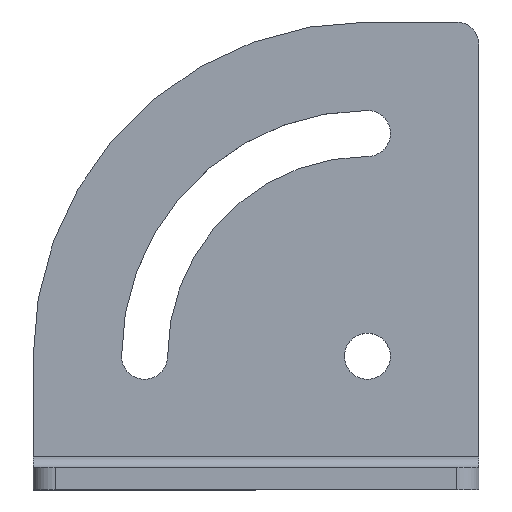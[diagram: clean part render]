
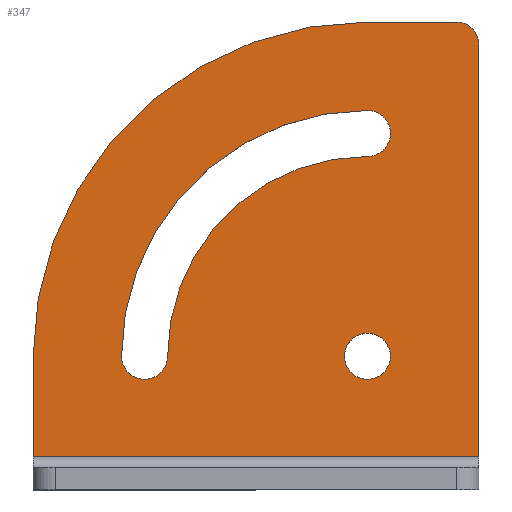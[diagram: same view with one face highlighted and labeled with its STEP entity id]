
A CAD part, top view. The second image highlights one B-rep face of the part: STEP entity #347.
In plain terms, the highlighted planar face has unit normal (0, 0, 1).
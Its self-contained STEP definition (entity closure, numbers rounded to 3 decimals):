
#12 = EDGE_CURVE ( 'NONE', #451, #605, #1016, .T. ) ;
#18 = CARTESIAN_POINT ( 'NONE',  ( 41.999, 24.539, 3. ) ) ;
#28 = DIRECTION ( 'NONE',  ( 0., 0., 1. ) ) ;
#30 = VECTOR ( 'NONE', #785, 1000. ) ;
#36 = DIRECTION ( 'NONE',  ( 1., 0., 0. ) ) ;
#38 = AXIS2_PLACEMENT_3D ( 'NONE', #144, #768, #245 ) ;
#42 = DIRECTION ( 'NONE',  ( 1., 0., 0. ) ) ;
#43 = EDGE_CURVE ( 'NONE', #605, #924, #810, .T. ) ;
#58 = DIRECTION ( 'NONE',  ( 0., 0., -1. ) ) ;
#108 = VERTEX_POINT ( 'NONE', #669 ) ;
#124 = VERTEX_POINT ( 'NONE', #224 ) ;
#144 = CARTESIAN_POINT ( 'NONE',  ( 53.999, 33.439, 3. ) ) ;
#148 = VERTEX_POINT ( 'NONE', #988 ) ;
#150 = CARTESIAN_POINT ( 'NONE',  ( 41.999, -8.561, 3. ) ) ;
#160 = ORIENTED_EDGE ( 'NONE', *, *, #672, .F. ) ;
#167 = EDGE_CURVE ( 'NONE', #124, #1071, #800, .T. ) ;
#169 = FACE_BOUND ( 'NONE', #274, .T. ) ;
#224 = CARTESIAN_POINT ( 'NONE',  ( -3.001, -8.561, 3. ) ) ;
#232 = FACE_OUTER_BOUND ( 'NONE', #1079, .T. ) ;
#235 = EDGE_CURVE ( 'NONE', #108, #374, #746, .T. ) ;
#240 = ORIENTED_EDGE ( 'NONE', *, *, #43, .F. ) ;
#243 = CIRCLE ( 'NONE', #1064, 33.1 ) ;
#245 = DIRECTION ( 'NONE',  ( 1., 0., 0. ) ) ;
#250 = DIRECTION ( 'NONE',  ( 1., 0., 0. ) ) ;
#264 = EDGE_CURVE ( 'NONE', #754, #779, #284, .T. ) ;
#274 = EDGE_LOOP ( 'NONE', ( #1118, #877 ) ) ;
#284 = CIRCLE ( 'NONE', #745, 3.1 ) ;
#304 = DIRECTION ( 'NONE',  ( 0., 0., 1. ) ) ;
#305 = AXIS2_PLACEMENT_3D ( 'NONE', #562, #28, #662 ) ;
#307 = EDGE_CURVE ( 'NONE', #1071, #108, #936, .T. ) ;
#308 = CARTESIAN_POINT ( 'NONE',  ( 41.999, -8.561, 3. ) ) ;
#326 = CARTESIAN_POINT ( 'NONE',  ( 15.099, -8.561, 3. ) ) ;
#330 = AXIS2_PLACEMENT_3D ( 'NONE', #1117, #578, #42 ) ;
#345 = CARTESIAN_POINT ( 'NONE',  ( 41.999, 36.439, 3. ) ) ;
#347 = ADVANCED_FACE ( 'NONE', ( #232, #1091, #169 ), #1030, .T. ) ;
#374 = VERTEX_POINT ( 'NONE', #483 ) ;
#378 = DIRECTION ( 'NONE',  ( 0., 0., 1. ) ) ;
#394 = ORIENTED_EDGE ( 'NONE', *, *, #167, .T. ) ;
#396 = DIRECTION ( 'NONE',  ( 0., 0., 1. ) ) ;
#408 = CARTESIAN_POINT ( 'NONE',  ( 41.999, -22.061, 3. ) ) ;
#411 = DIRECTION ( 'NONE',  ( 1., 0., 0. ) ) ;
#437 = EDGE_CURVE ( 'NONE', #534, #148, #618, .T. ) ;
#438 = CARTESIAN_POINT ( 'NONE',  ( 8.899, -8.561, 3. ) ) ;
#439 = ORIENTED_EDGE ( 'NONE', *, *, #264, .F. ) ;
#451 = VERTEX_POINT ( 'NONE', #438 ) ;
#456 = CARTESIAN_POINT ( 'NONE',  ( 56.999, -26.561, 3. ) ) ;
#480 = CARTESIAN_POINT ( 'NONE',  ( 45.099, -8.561, 3. ) ) ;
#483 = CARTESIAN_POINT ( 'NONE',  ( 56.999, 33.439, 3. ) ) ;
#506 = CARTESIAN_POINT ( 'NONE',  ( 41.999, -8.561, 3. ) ) ;
#509 = VECTOR ( 'NONE', #717, 1000. ) ;
#534 = VERTEX_POINT ( 'NONE', #930 ) ;
#540 = EDGE_CURVE ( 'NONE', #606, #865, #857, .T. ) ;
#542 = CARTESIAN_POINT ( 'NONE',  ( 45.099, 21.439, 3. ) ) ;
#562 = CARTESIAN_POINT ( 'NONE',  ( 41.999, -8.561, 3. ) ) ;
#566 = AXIS2_PLACEMENT_3D ( 'NONE', #911, #378, #989 ) ;
#571 = DIRECTION ( 'NONE',  ( 0., 0., 1. ) ) ;
#578 = DIRECTION ( 'NONE',  ( 0., 0., 1. ) ) ;
#582 = EDGE_CURVE ( 'NONE', #374, #534, #827, .T. ) ;
#605 = VERTEX_POINT ( 'NONE', #326 ) ;
#606 = VERTEX_POINT ( 'NONE', #688 ) ;
#614 = CIRCLE ( 'NONE', #330, 3.1 ) ;
#618 = LINE ( 'NONE', #345, #30 ) ;
#622 = CIRCLE ( 'NONE', #566, 3.1 ) ;
#634 = CARTESIAN_POINT ( 'NONE',  ( -3.001, -22.061, 3. ) ) ;
#641 = ORIENTED_EDGE ( 'NONE', *, *, #12, .F. ) ;
#662 = DIRECTION ( 'NONE',  ( 1., 0., 0. ) ) ;
#669 = CARTESIAN_POINT ( 'NONE',  ( 56.999, -22.061, 3. ) ) ;
#672 = EDGE_CURVE ( 'NONE', #779, #451, #243, .T. ) ;
#676 = VECTOR ( 'NONE', #1009, 1000. ) ;
#688 = CARTESIAN_POINT ( 'NONE',  ( 38.899, -8.561, 3. ) ) ;
#690 = DIRECTION ( 'NONE',  ( 1., 0., 0. ) ) ;
#700 = ORIENTED_EDGE ( 'NONE', *, *, #235, .T. ) ;
#717 = DIRECTION ( 'NONE',  ( 0., 1., 0. ) ) ;
#745 = AXIS2_PLACEMENT_3D ( 'NONE', #835, #304, #928 ) ;
#746 = LINE ( 'NONE', #456, #509 ) ;
#754 = VERTEX_POINT ( 'NONE', #542 ) ;
#759 = EDGE_CURVE ( 'NONE', #924, #754, #622, .T. ) ;
#768 = DIRECTION ( 'NONE',  ( 0., 0., 1. ) ) ;
#777 = DIRECTION ( 'NONE',  ( 0., 0., 1. ) ) ;
#779 = VERTEX_POINT ( 'NONE', #18 ) ;
#785 = DIRECTION ( 'NONE',  ( -1., 0., 0. ) ) ;
#786 = ORIENTED_EDGE ( 'NONE', *, *, #582, .T. ) ;
#800 = LINE ( 'NONE', #1014, #1027 ) ;
#810 = CIRCLE ( 'NONE', #993, 26.9 ) ;
#827 = CIRCLE ( 'NONE', #38, 3. ) ;
#835 = CARTESIAN_POINT ( 'NONE',  ( 41.999, 21.439, 3. ) ) ;
#849 = ORIENTED_EDGE ( 'NONE', *, *, #437, .T. ) ;
#857 = CIRCLE ( 'NONE', #1081, 3.1 ) ;
#865 = VERTEX_POINT ( 'NONE', #480 ) ;
#877 = ORIENTED_EDGE ( 'NONE', *, *, #540, .F. ) ;
#888 = EDGE_CURVE ( 'NONE', #148, #124, #1055, .T. ) ;
#891 = AXIS2_PLACEMENT_3D ( 'NONE', #308, #934, #411 ) ;
#892 = ORIENTED_EDGE ( 'NONE', *, *, #307, .T. ) ;
#895 = EDGE_LOOP ( 'NONE', ( #1007, #240, #641, #160, #439 ) ) ;
#896 = EDGE_CURVE ( 'NONE', #865, #606, #614, .T. ) ;
#911 = CARTESIAN_POINT ( 'NONE',  ( 41.999, 21.439, 3. ) ) ;
#924 = VERTEX_POINT ( 'NONE', #938 ) ;
#925 = CARTESIAN_POINT ( 'NONE',  ( 11.999, -8.561, 3. ) ) ;
#928 = DIRECTION ( 'NONE',  ( 1., 0., 0. ) ) ;
#930 = CARTESIAN_POINT ( 'NONE',  ( 53.999, 36.439, 3. ) ) ;
#934 = DIRECTION ( 'NONE',  ( 0., 0., 1. ) ) ;
#936 = LINE ( 'NONE', #408, #676 ) ;
#938 = CARTESIAN_POINT ( 'NONE',  ( 41.999, 18.339, 3. ) ) ;
#943 = AXIS2_PLACEMENT_3D ( 'NONE', #925, #396, #1004 ) ;
#958 = DIRECTION ( 'NONE',  ( 0., -1., 0. ) ) ;
#988 = CARTESIAN_POINT ( 'NONE',  ( 41.999, 36.439, 3. ) ) ;
#989 = DIRECTION ( 'NONE',  ( 1., 0., 0. ) ) ;
#993 = AXIS2_PLACEMENT_3D ( 'NONE', #506, #58, #690 ) ;
#1004 = DIRECTION ( 'NONE',  ( 1., 0., 0. ) ) ;
#1007 = ORIENTED_EDGE ( 'NONE', *, *, #759, .F. ) ;
#1009 = DIRECTION ( 'NONE',  ( 1., 0., 0. ) ) ;
#1014 = CARTESIAN_POINT ( 'NONE',  ( -3.001, -8.561, 3. ) ) ;
#1016 = CIRCLE ( 'NONE', #943, 3.1 ) ;
#1027 = VECTOR ( 'NONE', #958, 1000. ) ;
#1030 = PLANE ( 'NONE',  #305 ) ;
#1055 = CIRCLE ( 'NONE', #891, 45. ) ;
#1064 = AXIS2_PLACEMENT_3D ( 'NONE', #150, #777, #250 ) ;
#1071 = VERTEX_POINT ( 'NONE', #634 ) ;
#1079 = EDGE_LOOP ( 'NONE', ( #394, #892, #700, #786, #849, #1106 ) ) ;
#1081 = AXIS2_PLACEMENT_3D ( 'NONE', #1110, #571, #36 ) ;
#1091 = FACE_BOUND ( 'NONE', #895, .T. ) ;
#1106 = ORIENTED_EDGE ( 'NONE', *, *, #888, .T. ) ;
#1110 = CARTESIAN_POINT ( 'NONE',  ( 41.999, -8.561, 3. ) ) ;
#1117 = CARTESIAN_POINT ( 'NONE',  ( 41.999, -8.561, 3. ) ) ;
#1118 = ORIENTED_EDGE ( 'NONE', *, *, #896, .F. ) ;
